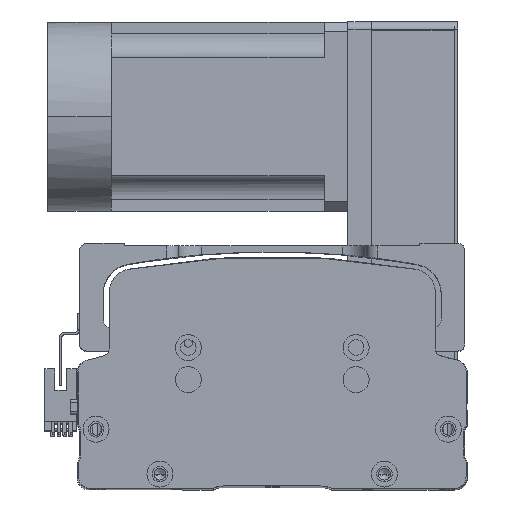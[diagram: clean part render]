
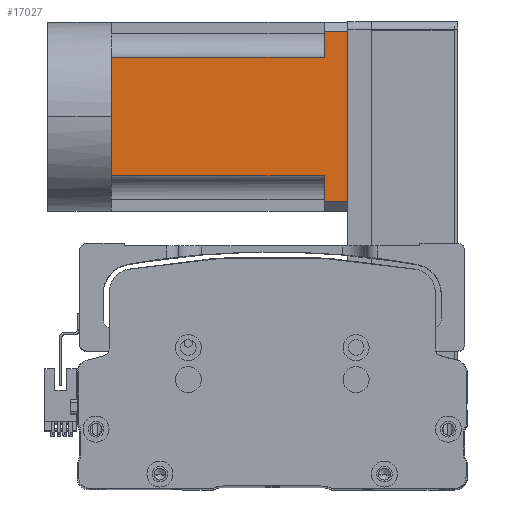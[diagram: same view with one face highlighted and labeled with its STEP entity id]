
A CAD part, top view. The second image highlights one B-rep face of the part: STEP entity #17027.
In plain terms, the highlighted planar face has unit normal (0, 0, 1) as drawn and (0, 0, -1) by its records, which use the part's own axes.
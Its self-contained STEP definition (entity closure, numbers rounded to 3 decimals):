
#69 = ORIENTED_EDGE ( 'NONE', *, *, #26128, .T. ) ;
#840 = EDGE_CURVE ( 'NONE', #37354, #55676, #40672, .T. ) ;
#1021 = CARTESIAN_POINT ( 'NONE',  ( 25., 90., -40. ) ) ;
#1572 = LINE ( 'NONE', #8912, #23289 ) ;
#1957 = LINE ( 'NONE', #13466, #49758 ) ;
#2477 = EDGE_CURVE ( 'NONE', #55676, #31214, #49165, .T. ) ;
#2547 = DIRECTION ( 'NONE',  ( -1., 0., 0. ) ) ;
#2795 = CARTESIAN_POINT ( 'NONE',  ( -25., -27., -40. ) ) ;
#3562 = EDGE_CURVE ( 'NONE', #6276, #48144, #1957, .T. ) ;
#4989 = VECTOR ( 'NONE', #30541, 1000. ) ;
#6276 = VERTEX_POINT ( 'NONE', #17425 ) ;
#6406 = EDGE_CURVE ( 'NONE', #48144, #58619, #1572, .T. ) ;
#8380 = DIRECTION ( 'NONE',  ( 0., 0., -1. ) ) ;
#8883 = CARTESIAN_POINT ( 'NONE',  ( -36., -27., -40. ) ) ;
#8912 = CARTESIAN_POINT ( 'NONE',  ( -40., 0., -40. ) ) ;
#9108 = DIRECTION ( 'NONE',  ( -1., 0., 0. ) ) ;
#9206 = ORIENTED_EDGE ( 'NONE', *, *, #2477, .T. ) ;
#9780 = DIRECTION ( 'NONE',  ( -1., 0., 0. ) ) ;
#13162 = VECTOR ( 'NONE', #16977, 1000. ) ;
#13466 = CARTESIAN_POINT ( 'NONE',  ( -40., 0., -40. ) ) ;
#13971 = CARTESIAN_POINT ( 'NONE',  ( -36., 90., -40. ) ) ;
#14138 = VECTOR ( 'NONE', #36406, 1000. ) ;
#14279 = EDGE_CURVE ( 'NONE', #58619, #22296, #23834, .T. ) ;
#16977 = DIRECTION ( 'NONE',  ( -1., 0., 0. ) ) ;
#17027 = ADVANCED_FACE ( 'NONE', ( #54610 ), #36081, .T. ) ;
#17425 = CARTESIAN_POINT ( 'NONE',  ( 25., 0., -40. ) ) ;
#18765 = VECTOR ( 'NONE', #37485, 1000. ) ;
#18897 = CARTESIAN_POINT ( 'NONE',  ( -40., 90., -40. ) ) ;
#19796 = LINE ( 'NONE', #30115, #55214 ) ;
#20195 = LINE ( 'NONE', #56015, #18765 ) ;
#22296 = VERTEX_POINT ( 'NONE', #41308 ) ;
#23289 = VECTOR ( 'NONE', #9108, 1000. ) ;
#23834 = LINE ( 'NONE', #2795, #4989 ) ;
#24472 = CARTESIAN_POINT ( 'NONE',  ( 36., 100., -40. ) ) ;
#25318 = ORIENTED_EDGE ( 'NONE', *, *, #37084, .T. ) ;
#26128 = EDGE_CURVE ( 'NONE', #22296, #48881, #50100, .T. ) ;
#28395 = VECTOR ( 'NONE', #48555, 1000. ) ;
#30115 = CARTESIAN_POINT ( 'NONE',  ( -40., 100., -40. ) ) ;
#30541 = DIRECTION ( 'NONE',  ( 0., 1., 0. ) ) ;
#31214 = VERTEX_POINT ( 'NONE', #1021 ) ;
#34582 = CARTESIAN_POINT ( 'NONE',  ( 36., -27., -40. ) ) ;
#36081 = PLANE ( 'NONE',  #37555 ) ;
#36406 = DIRECTION ( 'NONE',  ( 0., 1., 0. ) ) ;
#36843 = ORIENTED_EDGE ( 'NONE', *, *, #14279, .T. ) ;
#36855 = VECTOR ( 'NONE', #9780, 1000. ) ;
#37084 = EDGE_CURVE ( 'NONE', #48881, #40684, #51064, .T. ) ;
#37354 = VERTEX_POINT ( 'NONE', #24472 ) ;
#37485 = DIRECTION ( 'NONE',  ( 0., -1., 0. ) ) ;
#37555 = AXIS2_PLACEMENT_3D ( 'NONE', #59062, #8380, #40762 ) ;
#39874 = CARTESIAN_POINT ( 'NONE',  ( -40., 90., -40. ) ) ;
#40672 = LINE ( 'NONE', #34582, #28395 ) ;
#40684 = VERTEX_POINT ( 'NONE', #54515 ) ;
#40762 = DIRECTION ( 'NONE',  ( -1., 0., 0. ) ) ;
#41308 = CARTESIAN_POINT ( 'NONE',  ( -25., 90., -40. ) ) ;
#42251 = ORIENTED_EDGE ( 'NONE', *, *, #3562, .T. ) ;
#44095 = ORIENTED_EDGE ( 'NONE', *, *, #58779, .T. ) ;
#48043 = ORIENTED_EDGE ( 'NONE', *, *, #840, .T. ) ;
#48144 = VERTEX_POINT ( 'NONE', #58306 ) ;
#48555 = DIRECTION ( 'NONE',  ( 0., -1., 0. ) ) ;
#48881 = VERTEX_POINT ( 'NONE', #13971 ) ;
#49165 = LINE ( 'NONE', #18897, #36855 ) ;
#49758 = VECTOR ( 'NONE', #55093, 1000. ) ;
#50100 = LINE ( 'NONE', #39874, #13162 ) ;
#50222 = CARTESIAN_POINT ( 'NONE',  ( -25., 0., -40. ) ) ;
#50934 = CARTESIAN_POINT ( 'NONE',  ( 36., 90., -40. ) ) ;
#51064 = LINE ( 'NONE', #8883, #14138 ) ;
#51899 = ORIENTED_EDGE ( 'NONE', *, *, #52547, .F. ) ;
#52547 = EDGE_CURVE ( 'NONE', #37354, #40684, #19796, .T. ) ;
#54515 = CARTESIAN_POINT ( 'NONE',  ( -36., 100., -40. ) ) ;
#54610 = FACE_OUTER_BOUND ( 'NONE', #56849, .T. ) ;
#55093 = DIRECTION ( 'NONE',  ( -1., 0., 0. ) ) ;
#55214 = VECTOR ( 'NONE', #2547, 1000. ) ;
#55676 = VERTEX_POINT ( 'NONE', #50934 ) ;
#56015 = CARTESIAN_POINT ( 'NONE',  ( 25., -27., -40. ) ) ;
#56849 = EDGE_LOOP ( 'NONE', ( #51899, #48043, #9206, #44095, #42251, #57515, #36843, #69, #25318 ) ) ;
#57515 = ORIENTED_EDGE ( 'NONE', *, *, #6406, .T. ) ;
#58306 = CARTESIAN_POINT ( 'NONE',  ( 0., 0., -40. ) ) ;
#58619 = VERTEX_POINT ( 'NONE', #50222 ) ;
#58779 = EDGE_CURVE ( 'NONE', #31214, #6276, #20195, .T. ) ;
#59062 = CARTESIAN_POINT ( 'NONE',  ( -40., -27., -40. ) ) ;
